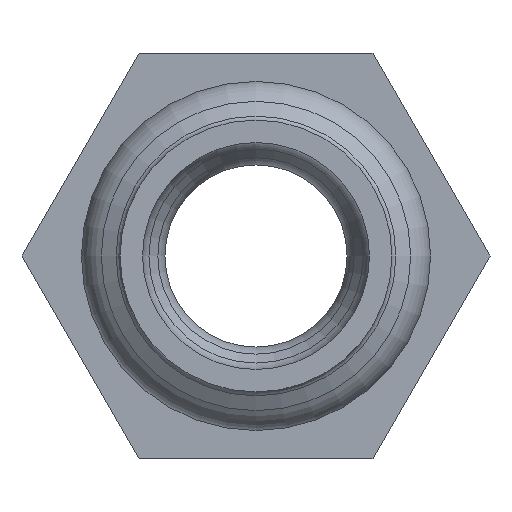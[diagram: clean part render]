
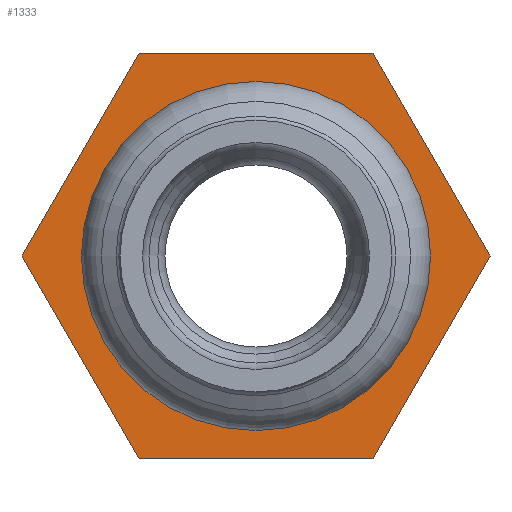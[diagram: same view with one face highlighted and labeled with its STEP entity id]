
A CAD part, left-side view. The second image highlights one B-rep face of the part: STEP entity #1333.
In plain terms, the highlighted planar face has unit normal (-1, 0, 0).
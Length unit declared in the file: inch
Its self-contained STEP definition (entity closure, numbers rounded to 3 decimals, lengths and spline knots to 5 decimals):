
#49=FACE_BOUND('',#206,.T.);
#55=PLANE('',#1568);
#144=FACE_OUTER_BOUND('',#205,.T.);
#205=EDGE_LOOP('',(#1174,#1175,#1176,#1177,#1178,#1179));
#206=EDGE_LOOP('',(#1180));
#240=LINE('',#2464,#283);
#241=LINE('',#2466,#284);
#242=LINE('',#2468,#285);
#243=LINE('',#2470,#286);
#244=LINE('',#2472,#287);
#245=LINE('',#2473,#288);
#283=VECTOR('',#2032,0.3937);
#284=VECTOR('',#2033,0.3937);
#285=VECTOR('',#2034,0.3937);
#286=VECTOR('',#2035,0.3937);
#287=VECTOR('',#2036,0.3937);
#288=VECTOR('',#2037,0.3937);
#456=CIRCLE('',#1563,0.53);
#594=VERTEX_POINT('',#2452);
#597=VERTEX_POINT('',#2462);
#598=VERTEX_POINT('',#2463);
#599=VERTEX_POINT('',#2465);
#600=VERTEX_POINT('',#2467);
#601=VERTEX_POINT('',#2469);
#602=VERTEX_POINT('',#2471);
#788=EDGE_CURVE('',#594,#594,#456,.T.);
#792=EDGE_CURVE('',#597,#598,#240,.T.);
#793=EDGE_CURVE('',#598,#599,#241,.T.);
#794=EDGE_CURVE('',#599,#600,#242,.T.);
#795=EDGE_CURVE('',#600,#601,#243,.T.);
#796=EDGE_CURVE('',#601,#602,#244,.T.);
#797=EDGE_CURVE('',#602,#597,#245,.T.);
#1174=ORIENTED_EDGE('',*,*,#792,.T.);
#1175=ORIENTED_EDGE('',*,*,#793,.T.);
#1176=ORIENTED_EDGE('',*,*,#794,.T.);
#1177=ORIENTED_EDGE('',*,*,#795,.T.);
#1178=ORIENTED_EDGE('',*,*,#796,.T.);
#1179=ORIENTED_EDGE('',*,*,#797,.T.);
#1180=ORIENTED_EDGE('',*,*,#788,.T.);
#1333=ADVANCED_FACE('',(#144,#49),#55,.F.);
#1563=AXIS2_PLACEMENT_3D('',#2453,#2019,#2020);
#1568=AXIS2_PLACEMENT_3D('',#2461,#2030,#2031);
#2019=DIRECTION('center_axis',(1.,0.,0.));
#2020=DIRECTION('ref_axis',(0.,1.,0.));
#2030=DIRECTION('center_axis',(1.,0.,0.));
#2031=DIRECTION('ref_axis',(0.,0.,-1.));
#2032=DIRECTION('',(0.,-0.5,-0.866));
#2033=DIRECTION('',(0.,-1.,0.));
#2034=DIRECTION('',(0.,-0.5,0.866));
#2035=DIRECTION('',(0.,0.5,0.866));
#2036=DIRECTION('',(0.,1.,0.));
#2037=DIRECTION('',(0.,0.5,-0.866));
#2452=CARTESIAN_POINT('',(-0.345,-0.53,0.));
#2453=CARTESIAN_POINT('Origin',(-0.345,0.,0.));
#2461=CARTESIAN_POINT('Origin',(-0.345,0.,0.));
#2462=CARTESIAN_POINT('',(-0.345,0.86603,0.));
#2463=CARTESIAN_POINT('',(-0.345,0.43301,-0.75));
#2464=CARTESIAN_POINT('',(-0.345,0.86603,0.));
#2465=CARTESIAN_POINT('',(-0.345,-0.43301,-0.75));
#2466=CARTESIAN_POINT('',(-0.345,0.43301,-0.75));
#2467=CARTESIAN_POINT('',(-0.345,-0.86603,0.));
#2468=CARTESIAN_POINT('',(-0.345,-0.43301,-0.75));
#2469=CARTESIAN_POINT('',(-0.345,-0.43301,0.75));
#2470=CARTESIAN_POINT('',(-0.345,-0.86603,0.));
#2471=CARTESIAN_POINT('',(-0.345,0.43301,0.75));
#2472=CARTESIAN_POINT('',(-0.345,-0.43301,0.75));
#2473=CARTESIAN_POINT('',(-0.345,0.43301,0.75));
